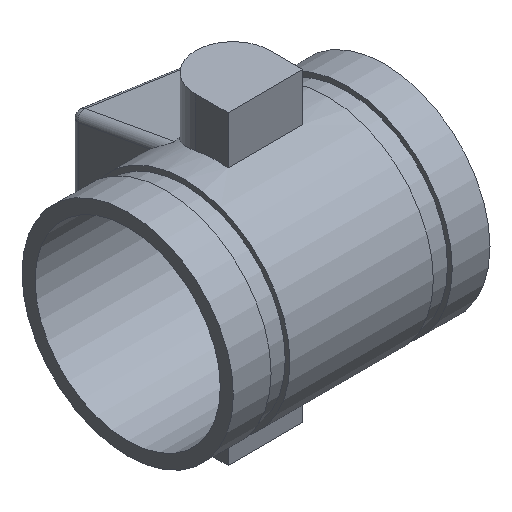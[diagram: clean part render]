
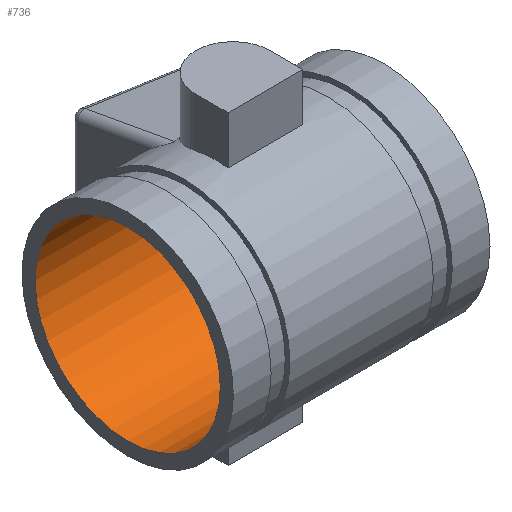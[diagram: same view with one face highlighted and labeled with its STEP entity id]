
A CAD part, isometric view. The second image highlights one B-rep face of the part: STEP entity #736.
In plain terms, the highlighted cylindrical face has radius 38.964 mm (diameter 77.927 mm), a full revolution.
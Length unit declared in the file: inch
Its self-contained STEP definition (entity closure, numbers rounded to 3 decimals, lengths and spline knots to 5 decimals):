
#93=LINE('',#1393,#131);
#131=VECTOR('',#1080,1.534);
#155=CYLINDRICAL_SURFACE('',#854,1.534);
#195=FACE_OUTER_BOUND('',#242,.T.);
#242=EDGE_LOOP('',(#645,#646,#647,#648,#649,#650));
#266=CIRCLE('',#822,1.534);
#267=CIRCLE('',#823,1.534);
#286=CIRCLE('',#852,1.534);
#287=CIRCLE('',#853,1.534);
#332=VERTEX_POINT('',#1333);
#333=VERTEX_POINT('',#1334);
#352=VERTEX_POINT('',#1388);
#353=VERTEX_POINT('',#1389);
#425=EDGE_CURVE('',#332,#333,#266,.T.);
#426=EDGE_CURVE('',#333,#332,#267,.T.);
#450=EDGE_CURVE('',#352,#353,#286,.T.);
#451=EDGE_CURVE('',#353,#352,#287,.T.);
#452=EDGE_CURVE('',#353,#333,#93,.T.);
#645=ORIENTED_EDGE('',*,*,#450,.T.);
#646=ORIENTED_EDGE('',*,*,#452,.T.);
#647=ORIENTED_EDGE('',*,*,#425,.F.);
#648=ORIENTED_EDGE('',*,*,#426,.F.);
#649=ORIENTED_EDGE('',*,*,#452,.F.);
#650=ORIENTED_EDGE('',*,*,#451,.T.);
#736=ADVANCED_FACE('',(#195),#155,.F.);
#822=AXIS2_PLACEMENT_3D('',#1335,#1009,#1010);
#823=AXIS2_PLACEMENT_3D('',#1336,#1011,#1012);
#852=AXIS2_PLACEMENT_3D('',#1390,#1074,#1075);
#853=AXIS2_PLACEMENT_3D('',#1391,#1076,#1077);
#854=AXIS2_PLACEMENT_3D('',#1392,#1078,#1079);
#1009=DIRECTION('center_axis',(1.,0.,0.));
#1010=DIRECTION('ref_axis',(0.,0.,-1.));
#1011=DIRECTION('center_axis',(1.,0.,0.));
#1012=DIRECTION('ref_axis',(0.,0.,-1.));
#1074=DIRECTION('center_axis',(1.,0.,0.));
#1075=DIRECTION('ref_axis',(0.,0.,-1.));
#1076=DIRECTION('center_axis',(1.,0.,0.));
#1077=DIRECTION('ref_axis',(0.,0.,-1.));
#1078=DIRECTION('center_axis',(1.,0.,0.));
#1079=DIRECTION('ref_axis',(0.,1.,0.));
#1080=DIRECTION('',(-1.,0.,0.));
#1333=CARTESIAN_POINT('',(0.,1.534,0.));
#1334=CARTESIAN_POINT('',(0.,-1.534,0.));
#1335=CARTESIAN_POINT('Origin',(0.,0.,
0.));
#1336=CARTESIAN_POINT('Origin',(0.,0.,
0.));
#1388=CARTESIAN_POINT('',(4.25,1.534,0.));
#1389=CARTESIAN_POINT('',(4.25,-1.534,0.));
#1390=CARTESIAN_POINT('Origin',(4.25,0.,0.));
#1391=CARTESIAN_POINT('Origin',(4.25,0.,0.));
#1392=CARTESIAN_POINT('Origin',(2.125,0.,0.));
#1393=CARTESIAN_POINT('',(2.125,-1.534,0.));
